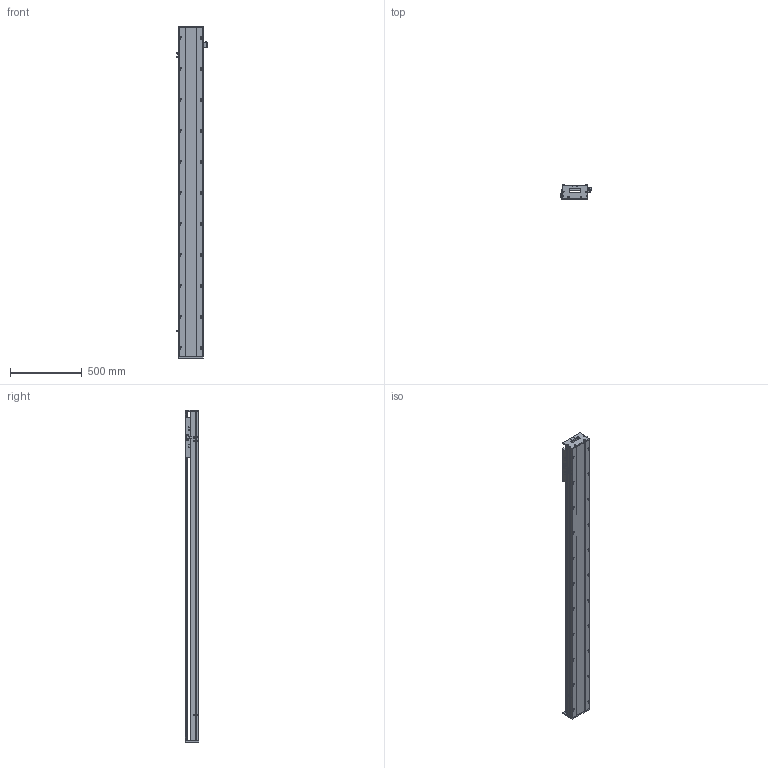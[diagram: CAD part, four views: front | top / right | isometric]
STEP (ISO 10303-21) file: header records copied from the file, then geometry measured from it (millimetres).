
FILE_DESCRIPTION (( 'STEP AP203' ), '1' );
FILE_NAME ('SKR17S-C2-S1936（简）.STEP', '2022-09-29T08:16:33', ( '' ), ( '' ), 'SwSTEP 2.0', 'SolidWorks 2018', '' );
FILE_SCHEMA (( 'CONFIG_CONTROL_DESIGN' ));
Length unit declared in the file: millimetre
Products named in the file (8): SKR17S-C2-S1936（简）; 棠掑假蚾輸; SKR17耜啣; EE-SX672; SKR17底座-C2-S1936（简); SKR17滑台-280L（简）; 感应片（SKR12S-14S-17S）; SIKO棠掑
Assembly tree (10 placements, depth 2):
  SKR17S-C2-S1936（简）
    SKR17底座-C2-S1936（简)
    SIKO棠掑
    EE-SX672  x3
    SKR17耜啣  x2
    棠掑假蚾輸
    SKR17滑台-280L（简）
    感应片（SKR12S-14S-17S）
Bounding box: 212.7 x 97 x 2316 mm (x, y, z)
Volume: 18082576.2 mm3; surface area: 2200825.7 mm2
Topology: 11 solids, 11 shells, 1336 faces, 3728 edges, 2392 vertices
Faces by surface type: cylinder 661, plane 537, cone 138
Entity records: 41507 total; most frequent: CARTESIAN_POINT 11151, ORIENTED_EDGE 6428, DIRECTION 5861, EDGE_CURVE 3214, VERTEX_POINT 2096, AXIS2_PLACEMENT_3D 2086, VECTOR 1689, LINE 1689
